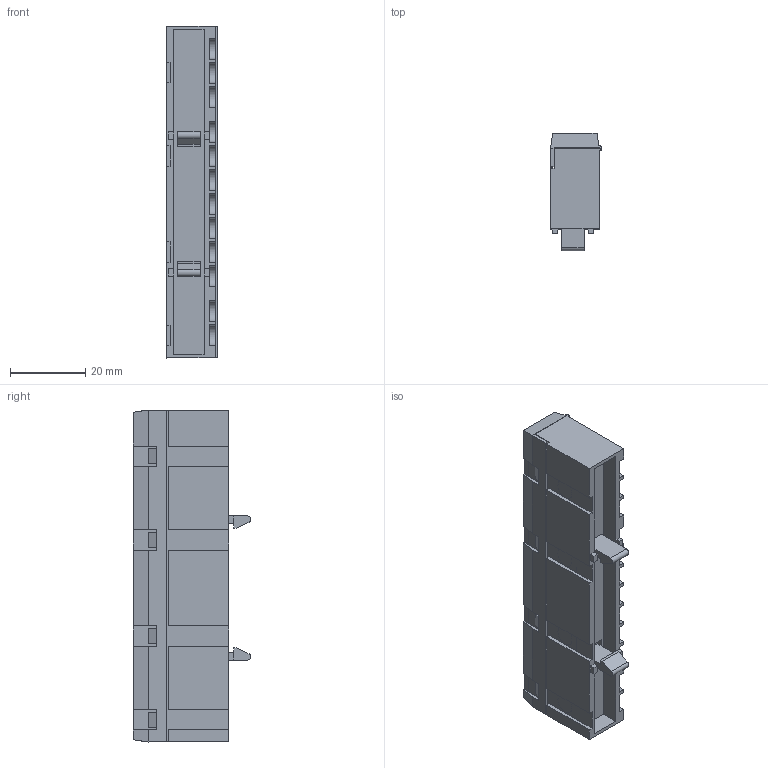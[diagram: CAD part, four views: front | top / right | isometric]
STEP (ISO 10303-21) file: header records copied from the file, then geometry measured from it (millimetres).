
FILE_DESCRIPTION (( 'STEP AP214' ), '1' );
FILE_NAME ('CS-L12.step', '2012-10-18T10:38:44', ( 'Radek Veselý' ), ( 'Siemens and Partners' ), 'SwSTEP 2.0', 'SolidWorks 2011', '' );
FILE_SCHEMA (( 'AUTOMOTIVE_DESIGN' ));
Length unit declared in the file: millimetre
Products named in the file (1): CS-L12
Bounding box: 13.6 x 31.3 x 88.4 mm (x, y, z)
Volume: 18308.6 mm3; surface area: 22991.3 mm2
Topology: 14 solids, 14 shells, 564 faces, 1554 edges, 1008 vertices
Faces by surface type: plane 356, cylinder 112, cone 72, bspline 24
Entity records: 26215 total; most frequent: CARTESIAN_POINT 5377, ORIENTED_EDGE 3108, DIRECTION 2856, EDGE_CURVE 1554, VECTOR 1090, LINE 1090, VERTEX_POINT 1008, AXIS2_PLACEMENT_3D 883
